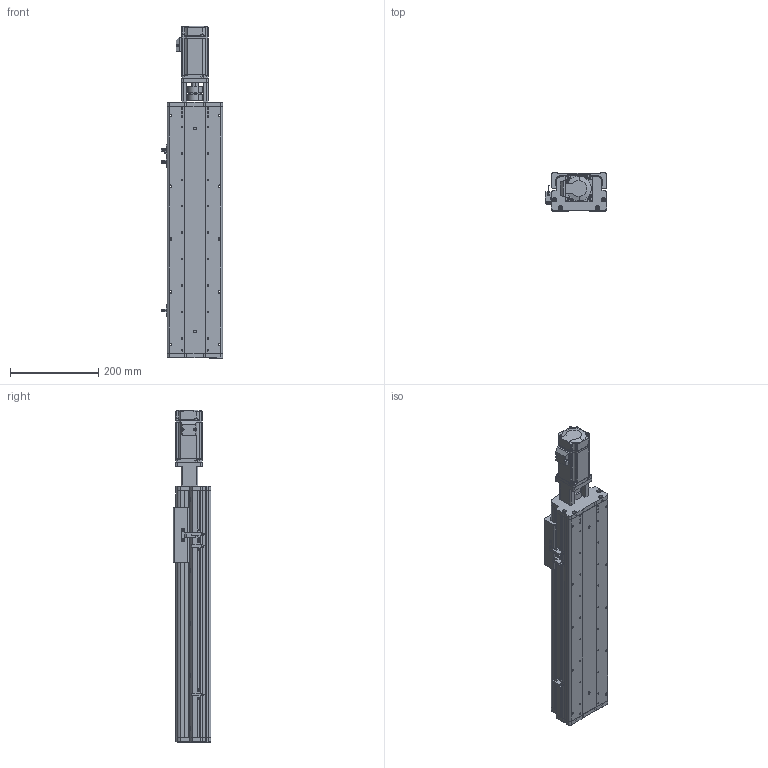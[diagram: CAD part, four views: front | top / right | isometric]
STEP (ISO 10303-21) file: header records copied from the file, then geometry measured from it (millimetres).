
FILE_DESCRIPTION (( 'STEP AP214' ), '1' );
FILE_NAME ('KSD125S-S350-MT-CM.STEP', '2017-08-07T06:38:56', ( '微软用户' ), ( '微软中国' ), 'SwSTEP 2.0', 'SolidWorks 2014', '' );
FILE_SCHEMA (( 'AUTOMOTIVE_DESIGN' ));
Length unit declared in the file: millimetre
Products named in the file (13): 100遵鎮湛假蚾啣1 ; 拸萇儂釱滅袉菜; 覜茼え68遵圉猾敕; U倰嫖萇假蚾璃; U倰嫖萇EEㄜSX672; KSD125S-350俴最佪裝滅鳥裔; ヶ傷啣-125遵耀郪; KSD125-賑雄釱1; CS-34X32-10X14; 125-帣傷啣1; KSD125S-350俴最佪裝菁啣; KSD125S-S350-MT-CM; MHMD042G1CA_2_03
Assembly tree (16 placements, depth 2):
  KSD125S-S350-MT-CM
    125-帣傷啣1
    CS-34X32-10X14
    KSD125-賑雄釱1
    ヶ傷啣-125遵耀郪
    U倰嫖萇EEㄜSX672  x3
    U倰嫖萇假蚾璃  x3
    覜茼え68遵圉猾敕
    拸萇儂釱滅袉菜
    100遵鎮湛假蚾啣1 
    MHMD042G1CA_2_03
    KSD125S-350俴最佪裝菁啣
    KSD125S-350俴最佪裝滅鳥裔
Bounding box: 138.7 x 86 x 753.5 mm (x, y, z)
Volume: 2171282 mm3; surface area: 730127 mm2
Topology: 15 solids, 18 shells, 1500 faces, 4322 edges, 2843 vertices
Faces by surface type: cylinder 750, plane 637, cone 91, bspline 22
Entity records: 52639 total; most frequent: CARTESIAN_POINT 11106, DIRECTION 7536, ORIENTED_EDGE 7152, EDGE_CURVE 3654, AXIS2_PLACEMENT_3D 2771, VERTEX_POINT 2435, VECTOR 1994, LINE 1994
